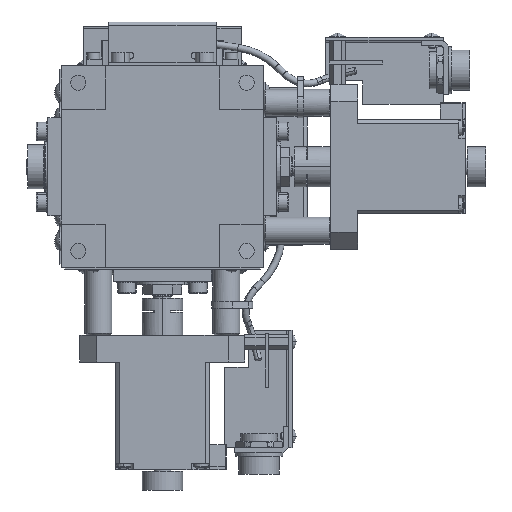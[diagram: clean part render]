
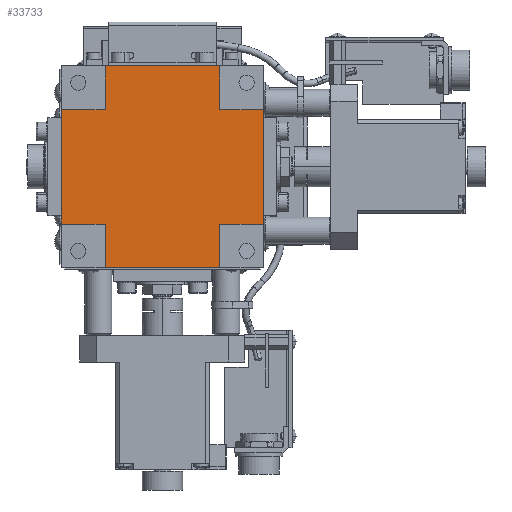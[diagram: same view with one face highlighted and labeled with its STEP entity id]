
A CAD part, front view. The second image highlights one B-rep face of the part: STEP entity #33733.
In plain terms, the highlighted planar face has unit normal (0, -1, 0).
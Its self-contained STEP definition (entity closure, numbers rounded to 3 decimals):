
#351 = VERTEX_POINT ( 'NONE', #49743 ) ;
#1134 = CARTESIAN_POINT ( 'NONE',  ( -30., 0.3, 17. ) ) ;
#1367 = DIRECTION ( 'NONE',  ( 1., 0., 0. ) ) ;
#1478 = ORIENTED_EDGE ( 'NONE', *, *, #15808, .T. ) ;
#2962 = DIRECTION ( 'NONE',  ( -1., 0., 0. ) ) ;
#3140 = PLANE ( 'NONE',  #5109 ) ;
#3490 = DIRECTION ( 'NONE',  ( 0., 1., 0. ) ) ;
#3778 = CARTESIAN_POINT ( 'NONE',  ( -17., 0.3, -30. ) ) ;
#3884 = ORIENTED_EDGE ( 'NONE', *, *, #42419, .T. ) ;
#4659 = VERTEX_POINT ( 'NONE', #39632 ) ;
#5109 = AXIS2_PLACEMENT_3D ( 'NONE', #47255, #3490, #2962 ) ;
#5724 = DIRECTION ( 'NONE',  ( 0., 0., -1. ) ) ;
#5933 = ORIENTED_EDGE ( 'NONE', *, *, #28168, .T. ) ;
#5985 = ORIENTED_EDGE ( 'NONE', *, *, #21984, .T. ) ;
#6154 = VECTOR ( 'NONE', #47551, 1000. ) ;
#6878 = VECTOR ( 'NONE', #45851, 1000. ) ;
#7136 = DIRECTION ( 'NONE',  ( 1., 0., 0. ) ) ;
#8007 = DIRECTION ( 'NONE',  ( 0., 0., -1. ) ) ;
#8279 = VERTEX_POINT ( 'NONE', #21058 ) ;
#8353 = CARTESIAN_POINT ( 'NONE',  ( 17., 0.3, -30. ) ) ;
#8805 = LINE ( 'NONE', #3778, #37238 ) ;
#9459 = LINE ( 'NONE', #24810, #34669 ) ;
#10328 = VERTEX_POINT ( 'NONE', #45142 ) ;
#10578 = VECTOR ( 'NONE', #7136, 1000. ) ;
#11166 = LINE ( 'NONE', #1134, #28254 ) ;
#11176 = VECTOR ( 'NONE', #11910, 1000. ) ;
#11910 = DIRECTION ( 'NONE',  ( 0., 0., 1. ) ) ;
#12660 = VERTEX_POINT ( 'NONE', #45477 ) ;
#13536 = CARTESIAN_POINT ( 'NONE',  ( -17., 0.3, 30. ) ) ;
#13609 = VECTOR ( 'NONE', #28911, 1000. ) ;
#13635 = VERTEX_POINT ( 'NONE', #13536 ) ;
#14100 = CARTESIAN_POINT ( 'NONE',  ( 30., 0.3, 17. ) ) ;
#15158 = DIRECTION ( 'NONE',  ( 0., 0., -1. ) ) ;
#15770 = EDGE_CURVE ( 'NONE', #13635, #30814, #33340, .T. ) ;
#15808 = EDGE_CURVE ( 'NONE', #25731, #16625, #18209, .T. ) ;
#16279 = EDGE_CURVE ( 'NONE', #10328, #351, #20672, .T. ) ;
#16625 = VERTEX_POINT ( 'NONE', #31636 ) ;
#16925 = LINE ( 'NONE', #23928, #6154 ) ;
#17282 = CARTESIAN_POINT ( 'NONE',  ( -17., 0.3, 17. ) ) ;
#17568 = LINE ( 'NONE', #46689, #10578 ) ;
#17838 = EDGE_CURVE ( 'NONE', #30814, #33408, #34447, .T. ) ;
#18209 = LINE ( 'NONE', #8353, #22581 ) ;
#19437 = CARTESIAN_POINT ( 'NONE',  ( -17., 0.3, -30. ) ) ;
#20672 = LINE ( 'NONE', #36113, #11176 ) ;
#21058 = CARTESIAN_POINT ( 'NONE',  ( 30., 0.3, 17. ) ) ;
#21174 = ORIENTED_EDGE ( 'NONE', *, *, #17838, .T. ) ;
#21984 = EDGE_CURVE ( 'NONE', #4659, #48902, #8805, .T. ) ;
#22136 = DIRECTION ( 'NONE',  ( -1., 0., 0. ) ) ;
#22581 = VECTOR ( 'NONE', #44536, 1000. ) ;
#22713 = ORIENTED_EDGE ( 'NONE', *, *, #29787, .T. ) ;
#23928 = CARTESIAN_POINT ( 'NONE',  ( 17., 0.3, -17. ) ) ;
#24468 = DIRECTION ( 'NONE',  ( -1., 0., 0. ) ) ;
#24810 = CARTESIAN_POINT ( 'NONE',  ( -17., 0.3, 30. ) ) ;
#25370 = CARTESIAN_POINT ( 'NONE',  ( -30., 0.3, 17. ) ) ;
#25731 = VERTEX_POINT ( 'NONE', #33317 ) ;
#26693 = CARTESIAN_POINT ( 'NONE',  ( 17., 0.3, 17. ) ) ;
#26713 = ORIENTED_EDGE ( 'NONE', *, *, #16279, .T. ) ;
#27180 = ORIENTED_EDGE ( 'NONE', *, *, #35748, .T. ) ;
#28168 = EDGE_CURVE ( 'NONE', #351, #13635, #9459, .T. ) ;
#28254 = VECTOR ( 'NONE', #5724, 1000. ) ;
#28911 = DIRECTION ( 'NONE',  ( -1., 0., 0. ) ) ;
#29454 = EDGE_LOOP ( 'NONE', ( #41701, #3884, #22713, #26713, #5933, #44143, #21174, #27180, #43730, #5985, #33911, #1478 ) ) ;
#29572 = VECTOR ( 'NONE', #1367, 1000. ) ;
#29787 = EDGE_CURVE ( 'NONE', #8279, #10328, #39017, .T. ) ;
#30218 = LINE ( 'NONE', #48489, #29572 ) ;
#30814 = VERTEX_POINT ( 'NONE', #17282 ) ;
#31636 = CARTESIAN_POINT ( 'NONE',  ( 17., 0.3, -17. ) ) ;
#33317 = CARTESIAN_POINT ( 'NONE',  ( 17., 0.3, -30. ) ) ;
#33340 = LINE ( 'NONE', #42837, #49709 ) ;
#33408 = VERTEX_POINT ( 'NONE', #49401 ) ;
#33733 = ADVANCED_FACE ( 'NONE', ( #47982 ), #3140, .F. ) ;
#33911 = ORIENTED_EDGE ( 'NONE', *, *, #34959, .T. ) ;
#34447 = LINE ( 'NONE', #25370, #13609 ) ;
#34669 = VECTOR ( 'NONE', #24468, 1000. ) ;
#34959 = EDGE_CURVE ( 'NONE', #48902, #25731, #30218, .T. ) ;
#35387 = EDGE_CURVE ( 'NONE', #16625, #12660, #16925, .T. ) ;
#35748 = EDGE_CURVE ( 'NONE', #33408, #41729, #11166, .T. ) ;
#36113 = CARTESIAN_POINT ( 'NONE',  ( 17., 0.3, 17. ) ) ;
#37238 = VECTOR ( 'NONE', #8007, 1000. ) ;
#37867 = LINE ( 'NONE', #14100, #6878 ) ;
#39017 = LINE ( 'NONE', #26693, #44671 ) ;
#39632 = CARTESIAN_POINT ( 'NONE',  ( -17., 0.3, -17. ) ) ;
#41701 = ORIENTED_EDGE ( 'NONE', *, *, #35387, .T. ) ;
#41729 = VERTEX_POINT ( 'NONE', #52313 ) ;
#42419 = EDGE_CURVE ( 'NONE', #12660, #8279, #37867, .T. ) ;
#42837 = CARTESIAN_POINT ( 'NONE',  ( -17., 0.3, 17. ) ) ;
#43730 = ORIENTED_EDGE ( 'NONE', *, *, #48317, .T. ) ;
#44143 = ORIENTED_EDGE ( 'NONE', *, *, #15770, .T. ) ;
#44536 = DIRECTION ( 'NONE',  ( 0., 0., 1. ) ) ;
#44671 = VECTOR ( 'NONE', #22136, 1000. ) ;
#45142 = CARTESIAN_POINT ( 'NONE',  ( 17., 0.3, 17. ) ) ;
#45477 = CARTESIAN_POINT ( 'NONE',  ( 30., 0.3, -17. ) ) ;
#45851 = DIRECTION ( 'NONE',  ( 0., 0., 1. ) ) ;
#46689 = CARTESIAN_POINT ( 'NONE',  ( -30., 0.3, -17. ) ) ;
#47255 = CARTESIAN_POINT ( 'NONE',  ( 0., 0.3, 0. ) ) ;
#47551 = DIRECTION ( 'NONE',  ( 1., 0., 0. ) ) ;
#47982 = FACE_OUTER_BOUND ( 'NONE', #29454, .T. ) ;
#48317 = EDGE_CURVE ( 'NONE', #41729, #4659, #17568, .T. ) ;
#48489 = CARTESIAN_POINT ( 'NONE',  ( -17., 0.3, -30. ) ) ;
#48902 = VERTEX_POINT ( 'NONE', #19437 ) ;
#49401 = CARTESIAN_POINT ( 'NONE',  ( -30., 0.3, 17. ) ) ;
#49709 = VECTOR ( 'NONE', #15158, 1000. ) ;
#49743 = CARTESIAN_POINT ( 'NONE',  ( 17., 0.3, 30. ) ) ;
#52313 = CARTESIAN_POINT ( 'NONE',  ( -30., 0.3, -17. ) ) ;
